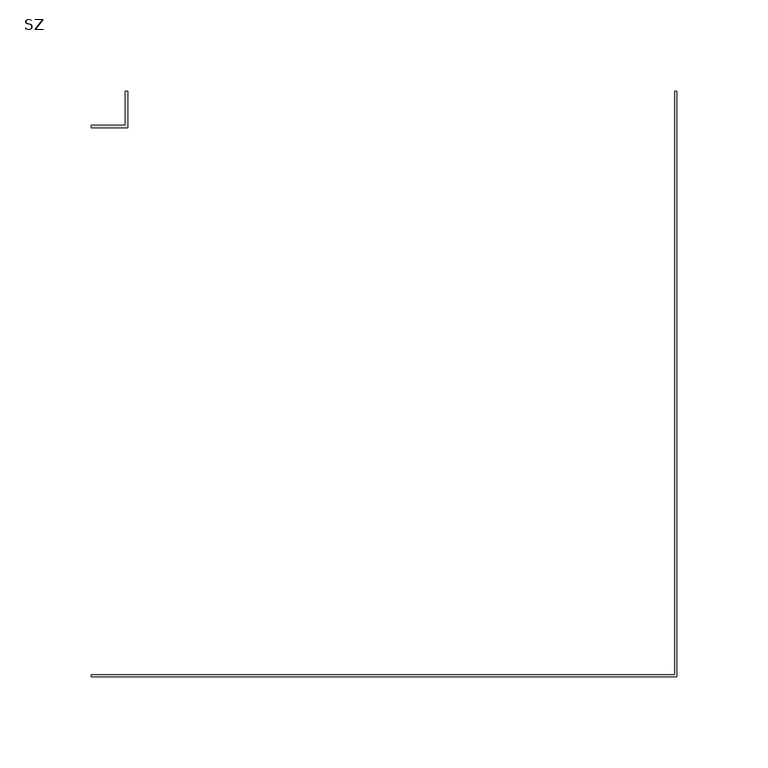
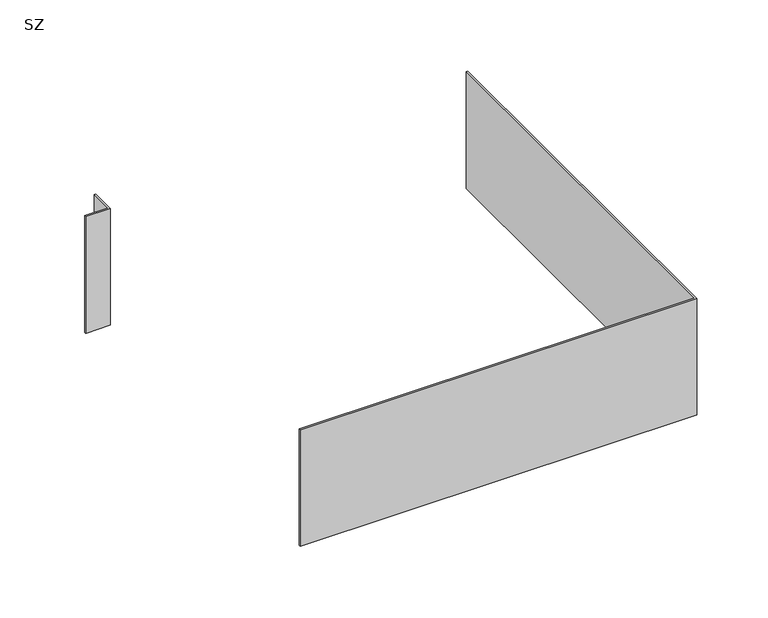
"""IFC4 building model written with IfcOpenShell, lengths in millimetres: cable carrier fitting geometry, IEK_Лестничный_Регулируемый поворот : SZ."""

from ifc_helpers import new_model, si_unit, frame, origin, place, context, project, spatial, polyline, outline, extrude, source, transform, mapped, element, save


def sz_ec360602(model_context):
    return source(origin(), model_context, "Body", "SweptSolid", [
        extrude(outline(polyline([(-170.0, 150.0), (-170.0, 151.2), (-151.2, 151.2), (-151.2, 170.0), (-150.0, 170.0), (-150.0, 150.0), (-170.0, 150.0)])), frame((0.0, 0.0, -50.0), z_axis=(0.0, 0.0, 1.0), x_axis=(1.0, 0.0, 0.0)), (0.0, 0.0, 1.0), 100.0),
        extrude(outline(polyline([(-170.0, -151.2), (-170.0, -150.0), (150.0, -150.0), (150.0, 170.0), (151.2, 170.0), (151.2, -151.2), (-170.0, -151.2)])), frame((0.0, 0.0, -50.0), z_axis=(0.0, 0.0, 1.0), x_axis=(1.0, 0.0, 0.0)), (0.0, 0.0, 1.0), 100.0),
    ])


if __name__ == "__main__":
    model = new_model("IFC4")
    model_context = context("Model", 3, world=origin())
    ifc_project = project(units=[si_unit("LENGTHUNIT", "METRE", prefix="MILLI")], contexts=[model_context])
    site = spatial("IfcSite", under=ifc_project)
    building = spatial("IfcBuilding", under=site)
    placement = place(None, origin())
    sz_shape = sz_ec360602(model_context)
    element("IfcCableCarrierFitting", 1, ObjectType="IEK_Лестничный_Регулируемый поворот : SZ", at=placement, inside=building, context=model_context, shape_type="MappedRepresentation", body=[
        mapped(sz_shape, transform((0.0, 0.0, 0.0), x_axis=(1.0, 0.0, 0.0), y_axis=(0.0, 1.0, 0.0), z_axis=(0.0, 0.0, 1.0))),
    ])
    save(model, "model.ifc")
